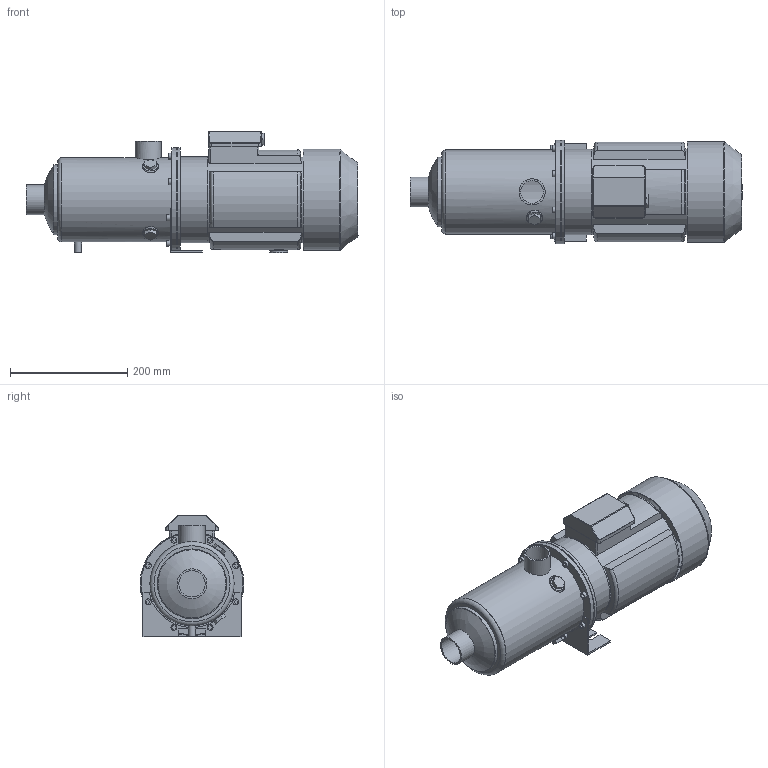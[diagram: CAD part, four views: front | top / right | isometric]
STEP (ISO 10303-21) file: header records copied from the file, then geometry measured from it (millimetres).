
FILE_DESCRIPTION(/* description */ ('Unknown'),/* implementation_level */ '2;1');
FILE_NAME(/* name */ 'MH 9 [6] T',/* time_stamp */ '2026-07-10T15:03:07+02:00',/* author */ ('Unknown'),/* organization */ ('Unknown'),/* preprocessor_version */ 'ST-DEVELOPER v20',/* originating_system */ 'Solid Edge',/* authorisation */ 'Unknown');
FILE_SCHEMA (('AUTOMOTIVE_DESIGN {1 0 10303 214 3 1 1}'));
Length unit declared in the file: millimetre
Products named in the file (10): MH 9 [6] T; Flangia motore Tonda M90; Corpo MH 9 [6]; Mot_Wendy_MEC90_22_T; carcassa MEC 90-Wendy; Basetta MEC 90 T-Wendy_new; Copriventola MEC 90-Wendy; Piedino MEC 90 int.90; Staffa 3-5-9 int.90
Assembly tree (8 placements, depth 3):
  MH 9 [6] T
    Flangia motore Tonda M90
    Corpo MH 9 [6]
    Mot_Wendy_MEC90_22_T
      carcassa MEC 90-Wendy
      Basetta MEC 90 T-Wendy_new
      Copriventola MEC 90-Wendy
    Piedino MEC 90 int.90
    Staffa 3-5-9 int.90
  (unnamed)
Bounding box: 565.6 x 176.5 x 206.5 mm (x, y, z)
Volume: 2617484.3 mm3; surface area: 693823.4 mm2
Topology: 8 solids, 8 shells, 269 faces, 627 edges, 416 vertices
Faces by surface type: plane 159, cylinder 71, torus 19, cone 14, bspline 4, sphere 2
Full cylindrical faces by diameter (mm): 7 x4, 10 x9, 12 x1, 13.5 x1, 17.5 x1, 21 x1, 30 x1, 38.952 x1, 44.5 x1, 44.845 x1, 50.8 x1, 116.1 x1, 118.5 x1, 136 x1, 140 x3, 141.1 x1, 143.5 x1, 146 x2, 170 x1, 172 x1, 173.5 x1, 174.1 x1, 176.5 x2
Entity records: 8657 total; most frequent: CARTESIAN_POINT 1580, DIRECTION 1218, ORIENTED_EDGE 1074, EDGE_CURVE 537, AXIS2_PLACEMENT_3D 447, VERTEX_POINT 384, EDGE_LOOP 379, FACE_BOUND 379
